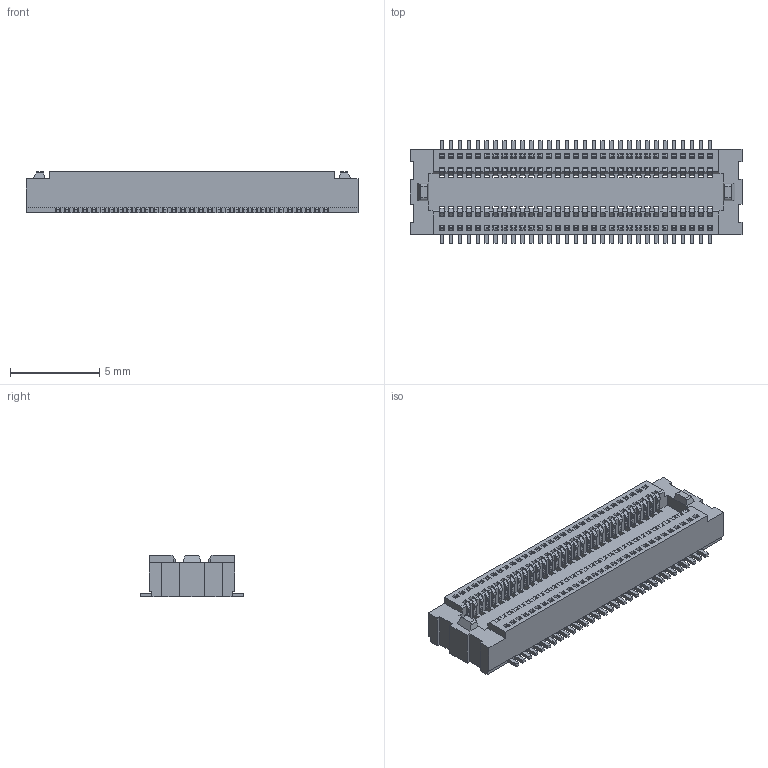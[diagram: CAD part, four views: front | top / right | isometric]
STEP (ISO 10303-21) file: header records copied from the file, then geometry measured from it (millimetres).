
FILE_DESCRIPTION(('CATIA V5 STEP Exchange'),'2;1');
FILE_NAME('F:\黄富鸿\板对板\0.5 单槽\无柱\母座\H2.35\HC-PBB05-1-62-F-H2.35-G1-R-06 (BTB0.5 单槽 母座 立贴 编带)-HCTL.stp','2026-01-20T10:09:43+00:00',('none'),('none'),'CATIA Version 5 Release 20 GA (IN-10)','CATIA V5 STEP AP203','none');
FILE_SCHEMA(('CONFIG_CONTROL_DESIGN'));
Products named in the file (1): Part2
Bounding box: 18.6 x 5.76 x 2.35 mm (x, y, z)
Volume: 136.8 mm3; surface area: 979.4 mm2
Topology: 63 solids, 63 shells, 2782 faces, 8522 edges, 5680 vertices
Faces by surface type: plane 1910, cylinder 872
Entity records: 80850 total; most frequent: ORIENTED_EDGE 17044, CARTESIAN_POINT 14507, DIRECTION 8966, EDGE_CURVE 8522, VECTOR 6778, LINE 6778, VERTEX_POINT 5680, EDGE_LOOP 2844
